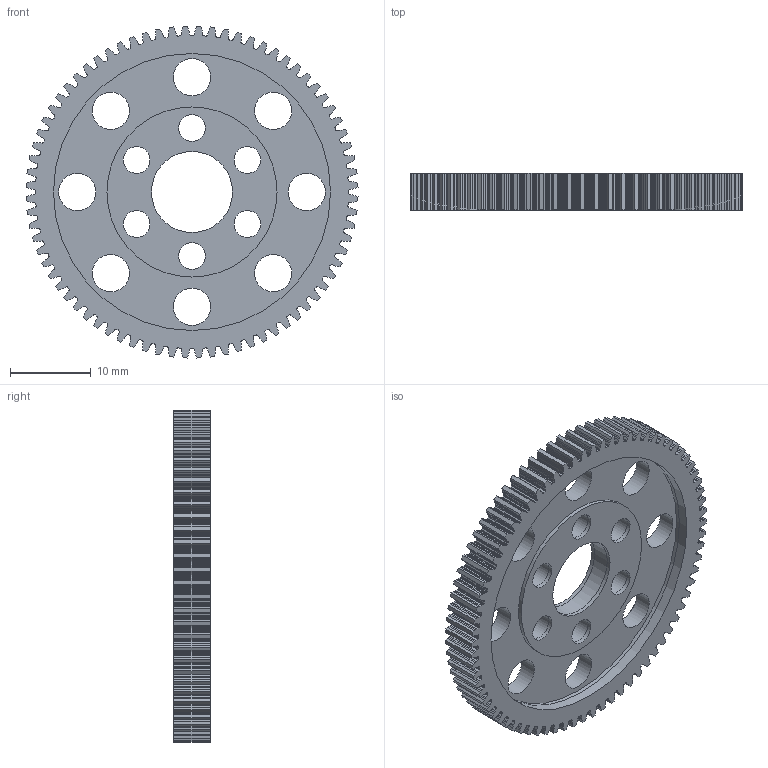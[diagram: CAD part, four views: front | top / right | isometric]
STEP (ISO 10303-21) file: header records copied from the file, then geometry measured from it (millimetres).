
FILE_DESCRIPTION(('Open CASCADE Model'),'2;1');
FILE_NAME('Open CASCADE Shape Model','2026-10-28T15:34:59',('Author'),( 'Open CASCADE'),'Open CASCADE STEP processor 7.9','Open CASCADE 7.9' ,'Unknown');
FILE_SCHEMA(('AUTOMOTIVE_DESIGN { 1 0 10303 214 1 1 1 1 }'));
Length unit declared in the file: millimetre
Products named in the file (1): Open CASCADE STEP translator 7.9 1
Bounding box: 40.99 x 4.5 x 40.99 mm (x, y, z)
Volume: 3143.2 mm3; surface area: 3990.8 mm2
Topology: 1 solids, 1 shells, 1405 faces, 4152 edges, 2768 vertices
Faces by surface type: plane 1371, cylinder 34
Full cylindrical faces by diameter (mm): 3.3 x18, 4.599 x8, 9.999 x1, 10 x2, 20.998 x2, 34.196 x2, 34.198 x1
Entity records: 100000 total; most frequent: CARTESIAN_POINT 16630, DIRECTION 15336, LINE 12320, VECTOR 12320, ORIENTED_EDGE 8304, PCURVE 8304, DEFINITIONAL_REPRESENTATION 8304, EDGE_CURVE 4152
